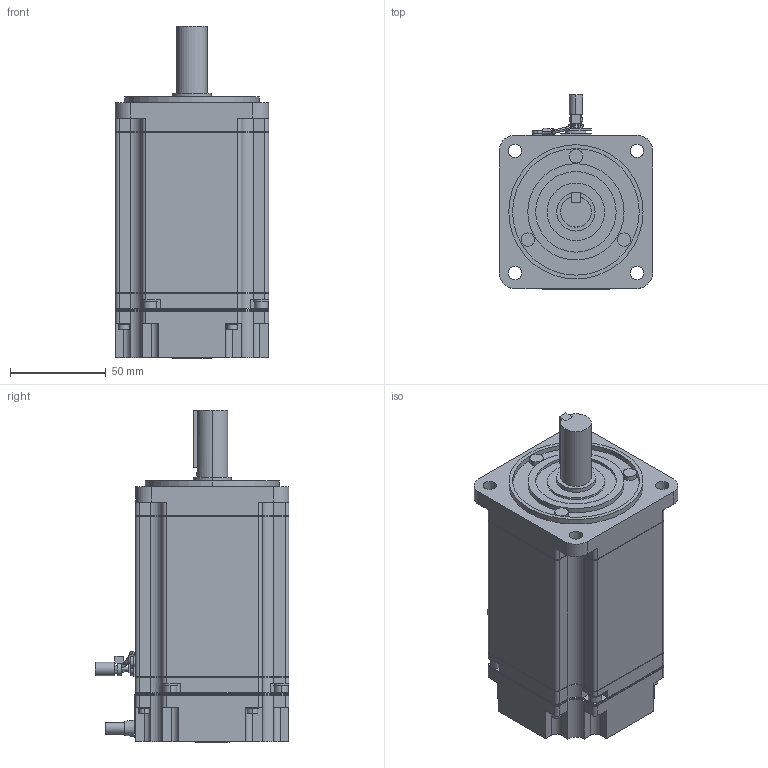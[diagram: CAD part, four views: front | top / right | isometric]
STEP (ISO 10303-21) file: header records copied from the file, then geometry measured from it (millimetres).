
FILE_DESCRIPTION (( 'STEP AP203' ), '1' );
FILE_NAME ('sjme_08amb41.STEP', '2011-11-08T23:38:27', ( '匠エンジニアリング山之内' ), ( 'TAKUMI-Engniaring' ), 'SwSTEP 2.0', 'SolidWorks 2006303', '' );
FILE_SCHEMA (( 'CONFIG_CONTROL_DESIGN' ));
Length unit declared in the file: millimetre
Products named in the file (3): sjme_08amb41_base; sjme_08amb41; sjme_08amb41_key
Assembly tree (2 placements, depth 2):
  sjme_08amb41
    sjme_08amb41_base
    sjme_08amb41_key
Bounding box: 80.1 x 101.1 x 173.1 mm (x, y, z)
Volume: 761099.6 mm3; surface area: 61022.6 mm2
Topology: 2 solids, 2 shells, 478 faces, 1279 edges, 838 vertices
Faces by surface type: plane 251, cylinder 196, bspline 29, cone 2
Entity records: 16037 total; most frequent: CARTESIAN_POINT 3540, DIRECTION 2567, ORIENTED_EDGE 2558, EDGE_CURVE 1279, AXIS2_PLACEMENT_3D 885, VERTEX_POINT 838, VECTOR 797, LINE 797
